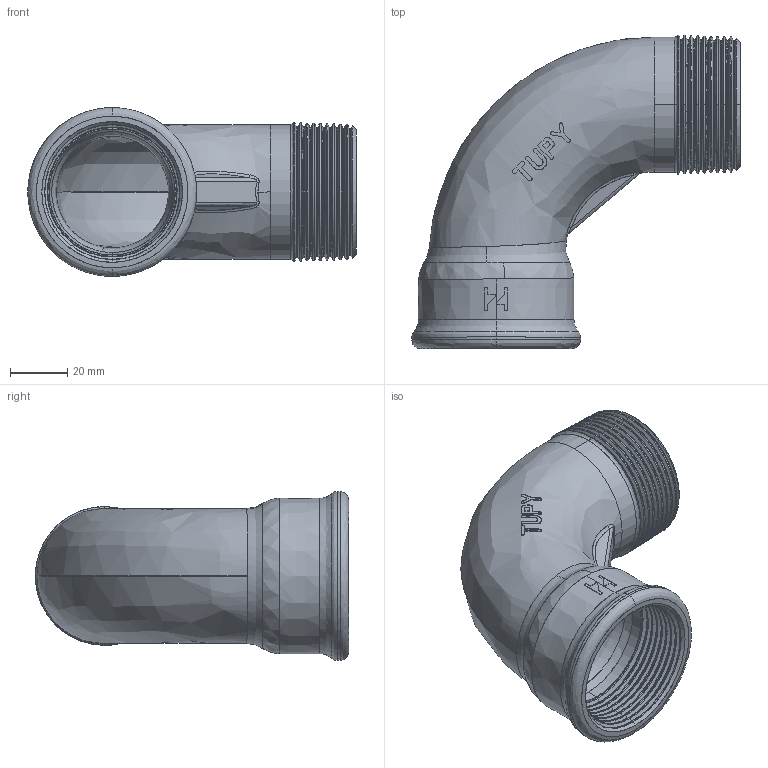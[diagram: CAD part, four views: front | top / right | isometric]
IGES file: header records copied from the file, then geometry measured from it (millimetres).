
Start section: SolidWorks IGES file using analytic representation for surfaces
Global section: file name: C:\Users\Joel Rosa\Desktop\Tubulação\12-22-OK\12-22-009.IGS; native system: SolidWorks 2011; preprocessor: SolidWorks 2011; author: Joel Rosa; date: 130205.210539; units: millimetre
Bounding box: 114.4 x 109.17 x 58.8 mm (x, y, z)
Surface area: 46358.3 mm2 (no closed solid volume)
Topology: 0 solids, 0 shells, 338 faces, 3091 edges, 3091 vertices
Faces by surface type: bspline 245, revolution 93
